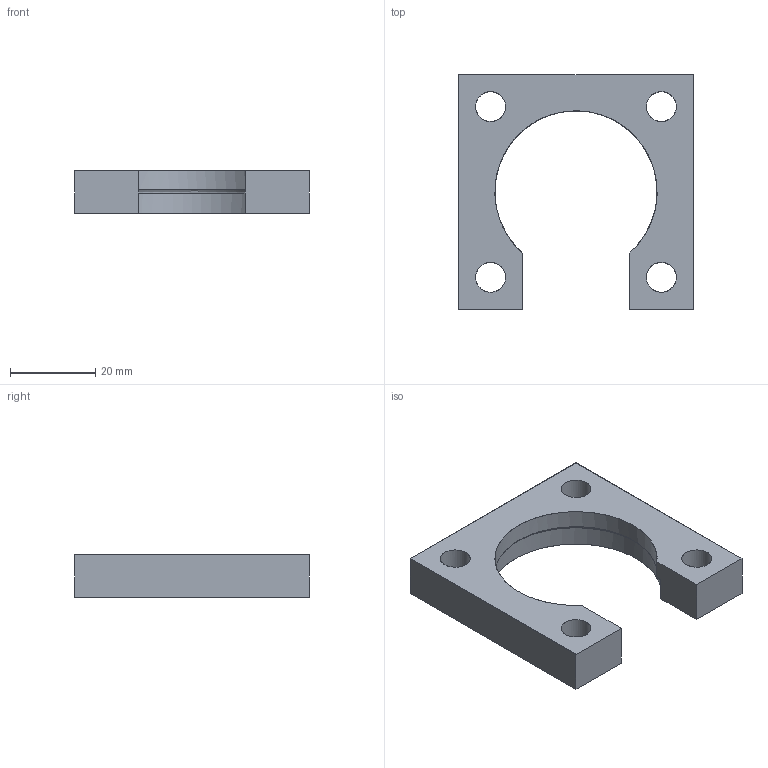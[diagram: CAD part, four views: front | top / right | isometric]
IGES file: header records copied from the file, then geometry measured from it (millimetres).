
Start section: VISI Layer Mapping Iges    VISI  0      LAYER_EMPTY  1      wwww  7      W_PD700  8      S_PD700  10     W_PD1000  11     S_PD1000  13     W_PD2000  14     S_PD2000  16     W_PD3000  17     S_PD3000  19     W_PD4000  20     S_PD4000  22     W_PD7000  23     S_PD7000  28     W_350  29     MS-350  30     MC-350  31     MP-350  32     MB-350  33     MH-350  34     MK-350  35     MPL-350  39     W_500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
Global section: file name: L:\cam_backup\钎霖前_沥府\颇况咆\mount_______\500\MPL-500.igs; native system: VISI 16.0; preprocessor: 2.0; author: 11; organization: 0; date: 500.; units: mil
Bounding box: 55 x 55 x 10 mm (x, y, z)
Surface area: 6971.1 mm2 (no closed solid volume)
Topology: 0 solids, 0 shells, 16 faces, 250 edges, 250 vertices
Faces by surface type: bspline 16
